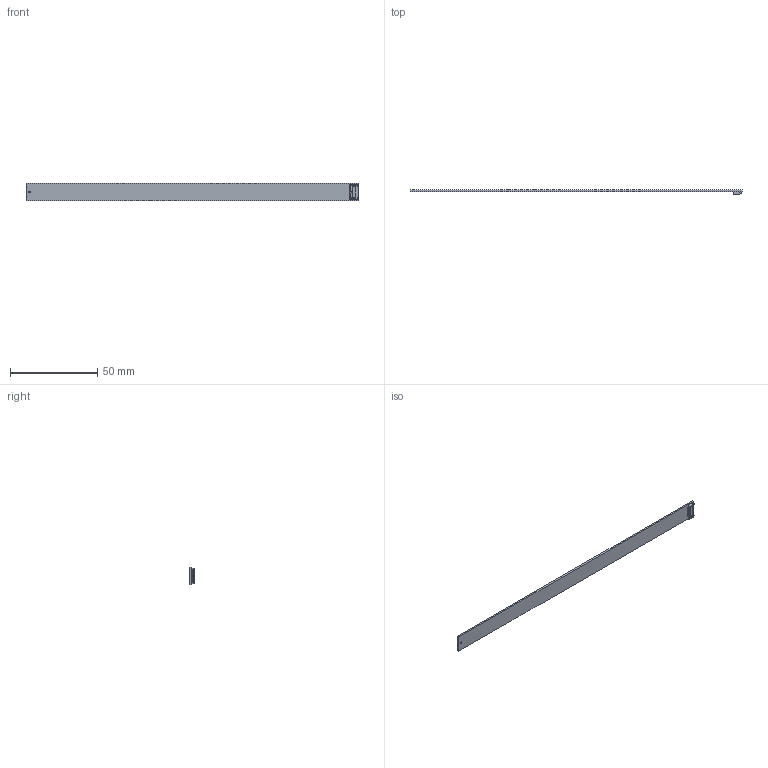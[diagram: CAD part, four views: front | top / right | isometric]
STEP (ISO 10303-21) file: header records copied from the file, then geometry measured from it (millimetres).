
FILE_DESCRIPTION (( 'STEP AP214' ), '1' );
FILE_NAME ('033-2020_0002_(150mm_B12_Linear_Sensor_3D).STEP', '2025-11-18T10:09:00', ( '' ), ( '' ), 'SwSTEP 2.0', 'SolidWorks 2024', '' );
FILE_SCHEMA (( 'AUTOMOTIVE_DESIGN' ));
Length unit declared in the file: millimetre
Products named in the file (3): 781715006; 010-0186_0001_(150mm_B12_LinearSensorPCB); 033-2020_0002_(150mm_B12_Linear_Sensor_3D)
Assembly tree (2 placements, depth 2):
  033-2020_0002_(150mm_B12_Linear_Sensor_3D)
    010-0186_0001_(150mm_B12_LinearSensorPCB)
    781715006
Bounding box: 190 x 2.45 x 10 mm (x, y, z)
Volume: 1917.1 mm3; surface area: 4336.9 mm2
Topology: 2 solids, 2 shells, 274 faces, 796 edges, 526 vertices
Faces by surface type: plane 264, cylinder 10
Entity records: 9036 total; most frequent: CARTESIAN_POINT 1601, ORIENTED_EDGE 1592, DIRECTION 1374, EDGE_CURVE 796, VECTOR 776, LINE 776, VERTEX_POINT 526, AXIS2_PLACEMENT_3D 299
